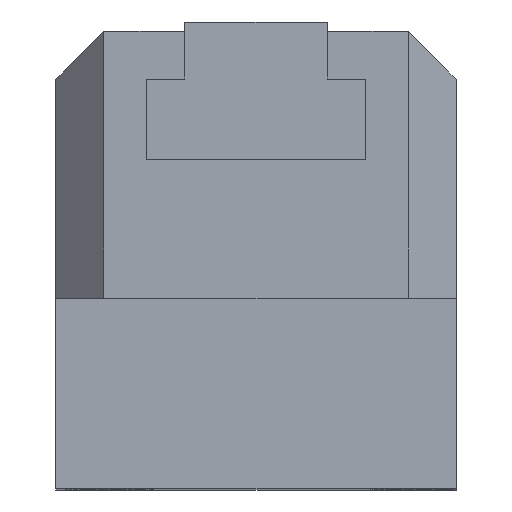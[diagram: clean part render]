
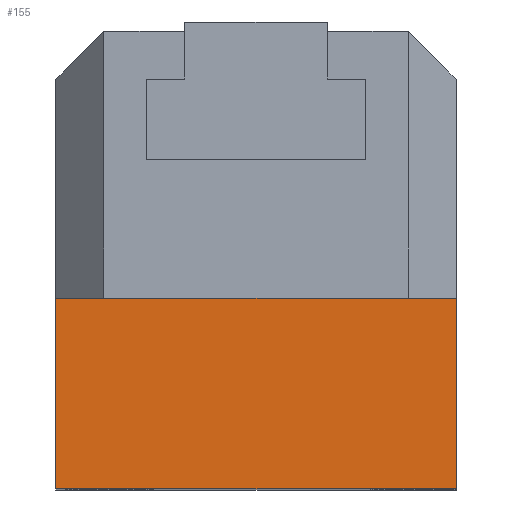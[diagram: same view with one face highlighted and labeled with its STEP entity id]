
A CAD part, top view. The second image highlights one B-rep face of the part: STEP entity #155.
In plain terms, the highlighted planar face has unit normal (0, 0, 1).
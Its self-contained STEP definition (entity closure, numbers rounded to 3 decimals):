
#155 = ADVANCED_FACE ( 'NONE', ( #3862 ), #3868, .F. ) ;
#157 = ORIENTED_EDGE ( 'NONE', *, *, #3218, .T. ) ;
#193 = EDGE_CURVE ( 'NONE', #3267, #2970, #3981, .T. ) ;
#194 = ORIENTED_EDGE ( 'NONE', *, *, #3270, .F. ) ;
#219 = ORIENTED_EDGE ( 'NONE', *, *, #193, .T. ) ;
#220 = EDGE_LOOP ( 'NONE', ( #219, #157, #222, #194 ) ) ;
#222 = ORIENTED_EDGE ( 'NONE', *, *, #3046, .T. ) ;
#639 = VECTOR ( 'NONE', #640, 1000. ) ;
#640 = DIRECTION ( 'NONE',  ( 0., -1., 0. ) ) ;
#641 = CARTESIAN_POINT ( 'NONE',  ( -21., 93.125, 31.5 ) ) ;
#645 = LINE ( 'NONE', #641, #639 ) ;
#1044 = DIRECTION ( 'NONE',  ( 0., -1., 0. ) ) ;
#1045 = VECTOR ( 'NONE', #1044, 1000. ) ;
#1046 = CARTESIAN_POINT ( 'NONE',  ( 21., 93.125, 31.5 ) ) ;
#1047 = LINE ( 'NONE', #1046, #1045 ) ;
#1062 = CARTESIAN_POINT ( 'NONE',  ( 21., 20., 31.5 ) ) ;
#2367 = CARTESIAN_POINT ( 'NONE',  ( 21., 0., 31.5 ) ) ;
#2524 = DIRECTION ( 'NONE',  ( 1., 0., 0. ) ) ;
#2525 = VECTOR ( 'NONE', #2524, 1000. ) ;
#2559 = CARTESIAN_POINT ( 'NONE',  ( -21., 0., 31.5 ) ) ;
#2581 = CARTESIAN_POINT ( 'NONE',  ( 21., 0., 31.5 ) ) ;
#2582 = LINE ( 'NONE', #2581, #2525 ) ;
#2970 = VERTEX_POINT ( 'NONE', #5743 ) ;
#3046 = EDGE_CURVE ( 'NONE', #3047, #3090, #2582, .T. ) ;
#3047 = VERTEX_POINT ( 'NONE', #2559 ) ;
#3090 = VERTEX_POINT ( 'NONE', #2367 ) ;
#3218 = EDGE_CURVE ( 'NONE', #2970, #3047, #645, .T. ) ;
#3267 = VERTEX_POINT ( 'NONE', #1062 ) ;
#3270 = EDGE_CURVE ( 'NONE', #3267, #3090, #1047, .T. ) ;
#3861 = AXIS2_PLACEMENT_3D ( 'NONE', #4006, #4005, #3999 ) ;
#3862 = FACE_OUTER_BOUND ( 'NONE', #220, .T. ) ;
#3868 = PLANE ( 'NONE',  #3861 ) ;
#3938 = DIRECTION ( 'NONE',  ( -1., 0., 0. ) ) ;
#3939 = VECTOR ( 'NONE', #3938, 1000. ) ;
#3940 = CARTESIAN_POINT ( 'NONE',  ( 21., 20., 31.5 ) ) ;
#3981 = LINE ( 'NONE', #3940, #3939 ) ;
#3999 = DIRECTION ( 'NONE',  ( -1., 0., 0. ) ) ;
#4005 = DIRECTION ( 'NONE',  ( 0., 0., -1. ) ) ;
#4006 = CARTESIAN_POINT ( 'NONE',  ( 21., 93.125, 31.5 ) ) ;
#5743 = CARTESIAN_POINT ( 'NONE',  ( -21., 20., 31.5 ) ) ;
